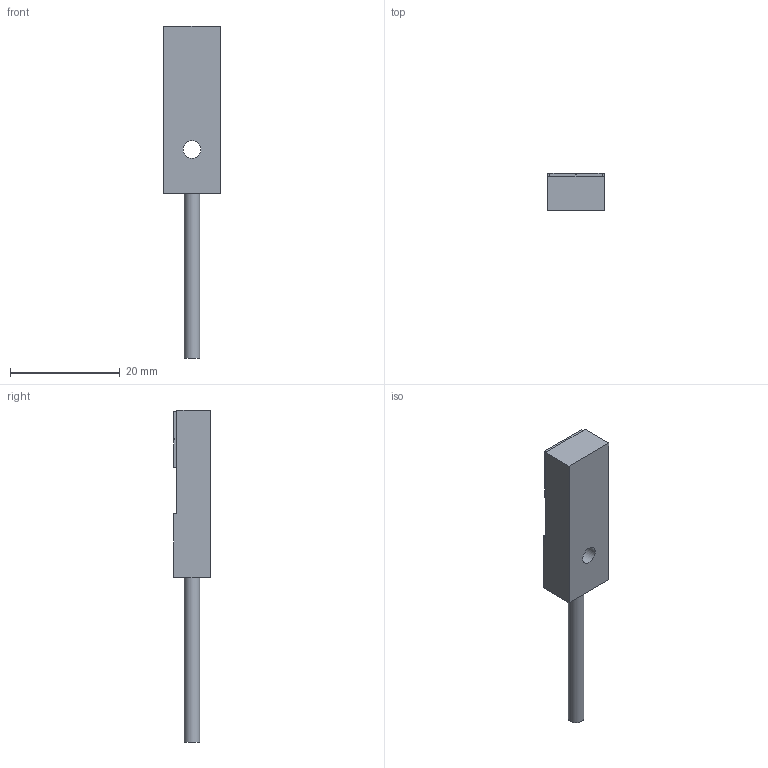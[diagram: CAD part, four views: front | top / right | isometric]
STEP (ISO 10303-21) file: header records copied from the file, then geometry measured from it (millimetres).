
FILE_DESCRIPTION(/* description */ (''),/* implementation_level */ '2;1');
FILE_NAME(/* name */ 'F:\HUAYIFENG\01)HUAYIFENG_宣传文件\01)HUAYIFENG_\X2\5BA34F2065874EF6\X0\_产品资料整合\03)产品3D文档\05)产品3D_接近系列_K12_2019\小方型接近传感器\PXW10.stp',/* time_stamp */ '2019-04-25T05:24:40-07:00',/* author */ ('fengjiarun'),/* organization */ (''),/* preprocessor_version */ 'ST-DEVELOPER v16.5',/* originating_system */ 'Autodesk Inventor 2017',/* authorisation */ '');
FILE_SCHEMA (('AUTOMOTIVE_DESIGN { 1 0 10303 214 3 1 1 }'));
Length unit declared in the file: millimetre
Products named in the file (1): PXW10
Bounding box: 10.3 x 6.7 x 60.5 mm (x, y, z)
Volume: 2174.6 mm3; surface area: 1498.5 mm2
Topology: 1 solids, 1 shells, 29 faces, 75 edges, 50 vertices
Faces by surface type: plane 26, cylinder 2, cone 1
Full cylindrical faces by diameter (mm): 2.9 x1, 3.2 x1
Entity records: 878 total; most frequent: CARTESIAN_POINT 150, ORIENTED_EDGE 142, DIRECTION 136, EDGE_CURVE 71, LINE 66, VECTOR 66, VERTEX_POINT 49, EDGE_LOOP 36
